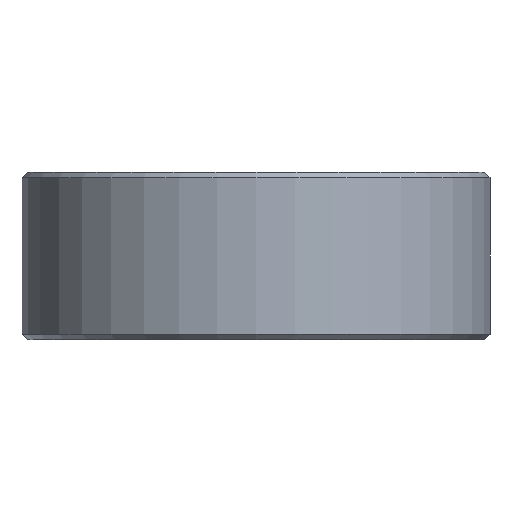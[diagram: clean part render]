
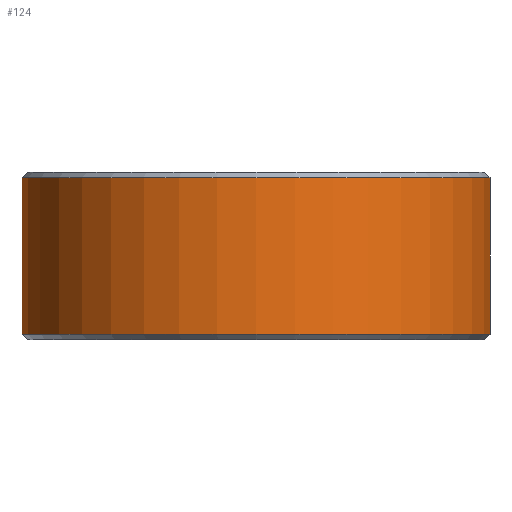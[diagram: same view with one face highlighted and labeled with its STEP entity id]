
A CAD part, front view. The second image highlights one B-rep face of the part: STEP entity #124.
In plain terms, the highlighted cylindrical face has radius 21 mm (diameter 42 mm), a partial arc.
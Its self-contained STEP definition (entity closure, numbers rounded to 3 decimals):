
#124 = ADVANCED_FACE( '', ( #259 ), #260, .T. );
#259 = FACE_OUTER_BOUND( '', #403, .T. );
#260 = CYLINDRICAL_SURFACE( '', #404, 21. );
#403 = EDGE_LOOP( '', ( #752, #753, #754, #755 ) );
#404 = AXIS2_PLACEMENT_3D( '', #756, #757, #758 );
#752 = ORIENTED_EDGE( '', *, *, #913, .T. );
#753 = ORIENTED_EDGE( '', *, *, #813, .T. );
#754 = ORIENTED_EDGE( '', *, *, #910, .F. );
#755 = ORIENTED_EDGE( '', *, *, #914, .T. );
#756 = CARTESIAN_POINT( '', ( 0., 0., 7.5 ) );
#757 = DIRECTION( '', ( 0., 0., -1. ) );
#758 = DIRECTION( '', ( 1., 0., 0. ) );
#813 = EDGE_CURVE( '', #929, #927, #930, .T. );
#910 = EDGE_CURVE( '', #1099, #927, #1100, .T. );
#913 = EDGE_CURVE( '', #1104, #929, #1105, .T. );
#914 = EDGE_CURVE( '', #1099, #1104, #1106, .F. );
#927 = VERTEX_POINT( '', #1124 );
#929 = VERTEX_POINT( '', #1129 );
#930 = LINE( '', #1130, #1131 );
#1099 = VERTEX_POINT( '', #1537 );
#1100 = CIRCLE( '', #1538, 21. );
#1104 = VERTEX_POINT( '', #1545 );
#1105 = CIRCLE( '', #1546, 21. );
#1106 = LINE( '', #1547, #1548 );
#1124 = CARTESIAN_POINT( '', ( 20.946, -1.5, 7. ) );
#1129 = CARTESIAN_POINT( '', ( 20.946, -1.5, -7. ) );
#1130 = CARTESIAN_POINT( '', ( 20.946, -1.5, 7.5 ) );
#1131 = VECTOR( '', #1561, 1000. );
#1537 = CARTESIAN_POINT( '', ( -20.946, -1.5, 7. ) );
#1538 = AXIS2_PLACEMENT_3D( '', #1714, #1715, #1716 );
#1545 = CARTESIAN_POINT( '', ( -20.946, -1.5, -7. ) );
#1546 = AXIS2_PLACEMENT_3D( '', #1720, #1721, #1722 );
#1547 = CARTESIAN_POINT( '', ( -20.946, -1.5, 7.5 ) );
#1548 = VECTOR( '', #1723, 1000. );
#1561 = DIRECTION( '', ( 0., 0., 1. ) );
#1714 = CARTESIAN_POINT( '', ( 0., 0., 7. ) );
#1715 = DIRECTION( '', ( 0., 0., 1. ) );
#1716 = DIRECTION( '', ( 1., 0., 0. ) );
#1720 = CARTESIAN_POINT( '', ( 0., 0., -7. ) );
#1721 = DIRECTION( '', ( 0., 0., 1. ) );
#1722 = DIRECTION( '', ( 1., 0., 0. ) );
#1723 = DIRECTION( '', ( 0., 0., 1. ) );
